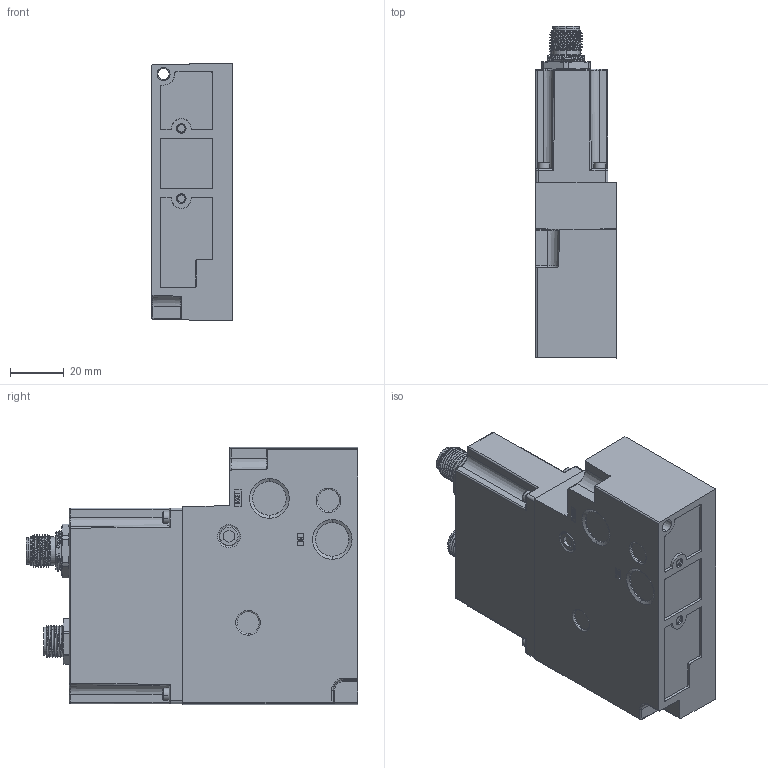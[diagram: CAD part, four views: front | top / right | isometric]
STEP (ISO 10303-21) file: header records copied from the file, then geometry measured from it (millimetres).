
FILE_DESCRIPTION (( 'STEP AP214' ), '1' );
FILE_NAME ('CLASS A MIO Link 46.STEP', '2024-08-23T19:20:12', ( '' ), ( '' ), 'SwSTEP 2.0', 'SolidWorks 2020', '' );
FILE_SCHEMA (( 'AUTOMOTIVE_DESIGN' ));
Length unit declared in the file: millimetre
Products named in the file (4): 89216(SC); 32813(SC); M-M0008-A(SC)_CLASS A; CLASS A MIO Link 46
Assembly tree (3 placements, depth 2):
  CLASS A MIO Link 46
    32813(SC)
    89216(SC)
    M-M0008-A(SC)_CLASS A
Bounding box: 29.9 x 123 x 95.48 mm (x, y, z)
Volume: 241691.9 mm3; surface area: 42807.5 mm2
Topology: 20 solids, 21 shells, 1693 faces, 4246 edges, 2623 vertices
Faces by surface type: plane 565, cylinder 517, cone 279, bspline 200, torus 87, sphere 45
Entity records: 156946 total; most frequent: CARTESIAN_POINT 99891, ORIENTED_EDGE 8330, DIRECTION 7530, EDGE_CURVE 4165, AXIS2_PLACEMENT_3D 2758, VERTEX_POINT 2623, LINE 2014, VECTOR 2014
